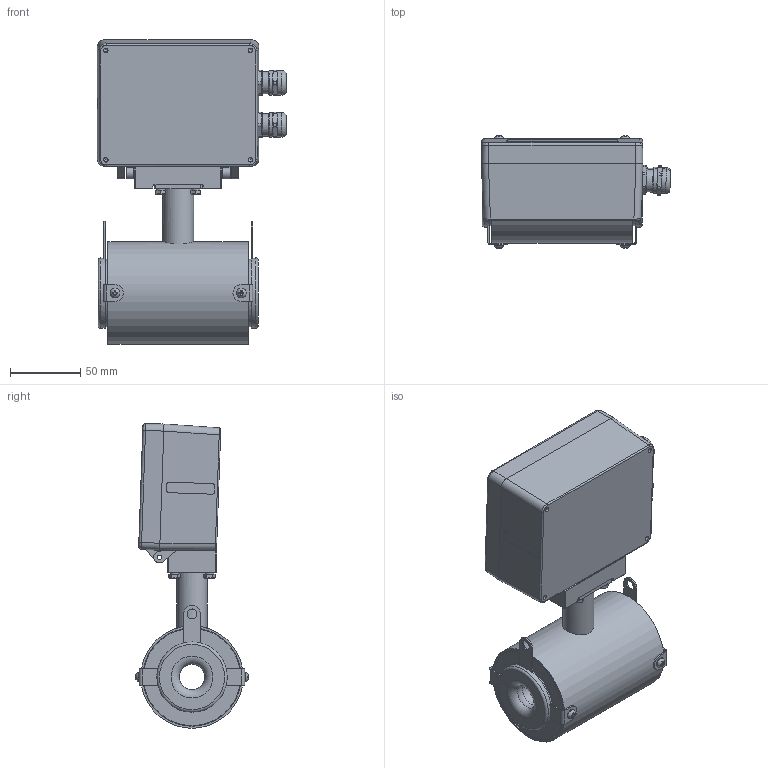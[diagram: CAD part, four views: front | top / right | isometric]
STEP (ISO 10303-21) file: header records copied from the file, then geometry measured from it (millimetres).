
FILE_DESCRIPTION(('STEP AP203'), '1');
FILE_NAME('Âçëåò ÝÌ ÏÐÎÔÈ DN20 Ñýíäâè÷', '', ('UNSPECIFIED'), ('UNSPECIFIED'), 'C3D Converter', 'C3D Toolkit', '');
FILE_SCHEMA(('CONFIG_CONTROL_DESIGN'));
Length unit declared in the file: millimetre
Products named in the file (1): ШКСД.407212.004-002-10
Bounding box: 134.72 x 80.3 x 216.97 mm (x, y, z)
Surface area: 189978.2 mm2 (no closed solid volume)
Topology: 0 solids, 9 shells, 922 faces, 2222 edges, 1391 vertices
Faces by surface type: plane 453, cylinder 268, cone 91, bspline 68, torus 38, sphere 4
Full cylindrical faces by diameter (mm): 0.8 x1, 3.242 x18, 3.422 x2, 4 x10, 4.134 x1, 4.5 x10, 4.917 x2, 5 x4, 6 x4, 6.2 x2, 7 x6, 7.5 x4, 8.7 x2, 12 x4, 15 x4, 16 x8, 16.3 x2, 17.5 x4, 18 x1, 19 x1, 20.2 x1, 22 x1, 24 x2, 26 x4, 28 x2, 31 x1, 32 x1, 48 x2, 50 x2, 68 x2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
Entity records: 50624 total; most frequent: CARTESIAN_POINT 22984, DIRECTION 4033, ORIENTED_EDGE 3970, EDGE_CURVE 1991, AXIS2_PLACEMENT_3D 1551, VERTEX_POINT 1371, EDGE_LOOP 1262, FACE_BOUND 941
